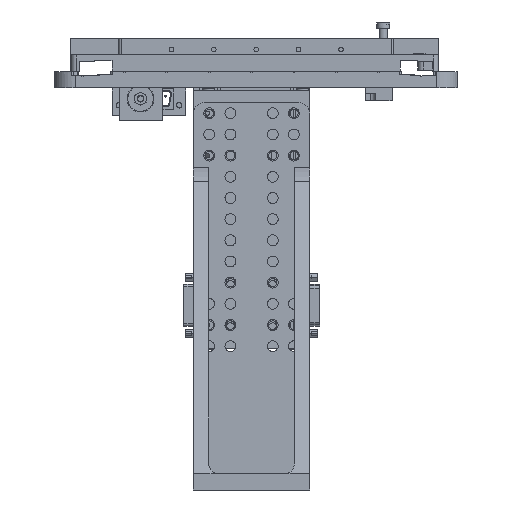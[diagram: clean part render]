
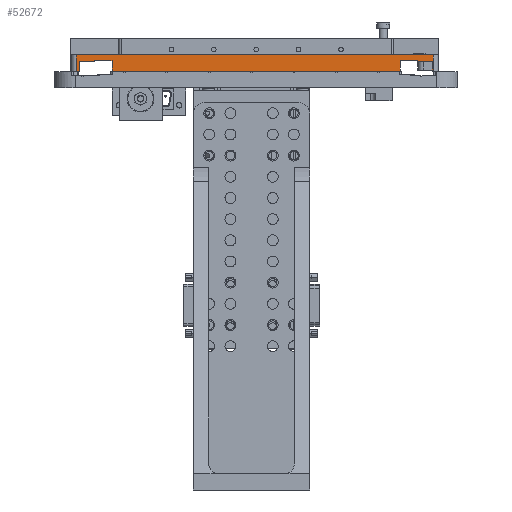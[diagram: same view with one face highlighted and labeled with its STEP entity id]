
A CAD part, left-side view. The second image highlights one B-rep face of the part: STEP entity #52672.
In plain terms, the highlighted planar face has unit normal (-1, 0, 0).
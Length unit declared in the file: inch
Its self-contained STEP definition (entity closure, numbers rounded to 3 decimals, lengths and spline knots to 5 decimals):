
#27 = VECTOR ( 'NONE', #42781, 39.37008 ) ;
#41 = DIRECTION ( 'NONE',  ( 0., -1., 0. ) ) ;
#287 = VERTEX_POINT ( 'NONE', #26554 ) ;
#388 = VECTOR ( 'NONE', #12713, 39.37008 ) ;
#1182 = VERTEX_POINT ( 'NONE', #33631 ) ;
#1477 = CARTESIAN_POINT ( 'NONE',  ( -4.59762, 3.727, -0.75 ) ) ;
#1536 = EDGE_CURVE ( 'NONE', #53768, #5730, #20669, .T. ) ;
#2071 = EDGE_CURVE ( 'NONE', #50399, #58803, #33586, .T. ) ;
#2207 = LINE ( 'NONE', #33497, #7941 ) ;
#2590 = ORIENTED_EDGE ( 'NONE', *, *, #3871, .T. ) ;
#2613 = CARTESIAN_POINT ( 'NONE',  ( -4.59762, 3.302, -0.525 ) ) ;
#3385 = VERTEX_POINT ( 'NONE', #52955 ) ;
#3871 = EDGE_CURVE ( 'NONE', #7195, #6837, #53985, .T. ) ;
#4438 = DIRECTION ( 'NONE',  ( 0., 0., 1. ) ) ;
#4746 = CARTESIAN_POINT ( 'NONE',  ( -4.59762, -4.69, -0.75 ) ) ;
#4893 = VECTOR ( 'NONE', #4438, 39.37008 ) ;
#5049 = DIRECTION ( 'NONE',  ( 0., -1., 0. ) ) ;
#5406 = VERTEX_POINT ( 'NONE', #34557 ) ;
#5730 = VERTEX_POINT ( 'NONE', #2613 ) ;
#5966 = VECTOR ( 'NONE', #5049, 39.37008 ) ;
#6288 = EDGE_CURVE ( 'NONE', #7195, #26745, #56211, .T. ) ;
#6837 = VERTEX_POINT ( 'NONE', #1477 ) ;
#6906 = ORIENTED_EDGE ( 'NONE', *, *, #27693, .T. ) ;
#7195 = VERTEX_POINT ( 'NONE', #52075 ) ;
#7704 = CARTESIAN_POINT ( 'NONE',  ( -4.59762, -3.804, -0.505 ) ) ;
#7941 = VECTOR ( 'NONE', #38187, 39.37008 ) ;
#8794 = LINE ( 'NONE', #59465, #38584 ) ;
#9922 = CARTESIAN_POINT ( 'NONE',  ( -4.59762, -3.804, -0.75 ) ) ;
#11662 = DIRECTION ( 'NONE',  ( 0., 0., -1. ) ) ;
#12145 = VECTOR ( 'NONE', #19642, 39.37008 ) ;
#12713 = DIRECTION ( 'NONE',  ( 0., -1., 0. ) ) ;
#12854 = DIRECTION ( 'NONE',  ( 0., -1., 0. ) ) ;
#13256 = DIRECTION ( 'NONE',  ( 0., 0., 1. ) ) ;
#13257 = LINE ( 'NONE', #31969, #18590 ) ;
#14494 = LINE ( 'NONE', #51361, #31379 ) ;
#14776 = VERTEX_POINT ( 'NONE', #26585 ) ;
#15054 = LINE ( 'NONE', #28548, #12145 ) ;
#15175 = DIRECTION ( 'NONE',  ( -1., 0., 0. ) ) ;
#16996 = VECTOR ( 'NONE', #22607, 39.37008 ) ;
#17284 = EDGE_CURVE ( 'NONE', #6837, #31230, #2207, .T. ) ;
#17549 = CARTESIAN_POINT ( 'NONE',  ( -4.59762, 3.302, -0.525 ) ) ;
#18048 = AXIS2_PLACEMENT_3D ( 'NONE', #4746, #15175, #33576 ) ;
#18067 = VECTOR ( 'NONE', #11662, 39.37008 ) ;
#18590 = VECTOR ( 'NONE', #26467, 39.37008 ) ;
#18935 = ORIENTED_EDGE ( 'NONE', *, *, #2071, .T. ) ;
#19642 = DIRECTION ( 'NONE',  ( 0., -1., 0. ) ) ;
#20513 = ORIENTED_EDGE ( 'NONE', *, *, #28870, .T. ) ;
#20669 = LINE ( 'NONE', #24045, #27 ) ;
#20725 = DIRECTION ( 'NONE',  ( 0., 0., 1. ) ) ;
#20835 = ORIENTED_EDGE ( 'NONE', *, *, #40551, .T. ) ;
#21080 = EDGE_CURVE ( 'NONE', #1182, #35561, #50301, .T. ) ;
#21148 = ORIENTED_EDGE ( 'NONE', *, *, #30170, .T. ) ;
#22575 = CARTESIAN_POINT ( 'NONE',  ( -4.59762, 3.652, -0.525 ) ) ;
#22607 = DIRECTION ( 'NONE',  ( 0., 0., 1. ) ) ;
#22621 = ORIENTED_EDGE ( 'NONE', *, *, #1536, .T. ) ;
#24045 = CARTESIAN_POINT ( 'NONE',  ( -4.59762, 3.652, -0.525 ) ) ;
#25852 = ORIENTED_EDGE ( 'NONE', *, *, #50138, .T. ) ;
#26467 = DIRECTION ( 'NONE',  ( 0., 0., -1. ) ) ;
#26554 = CARTESIAN_POINT ( 'NONE',  ( -4.59762, 2.896, -0.75 ) ) ;
#26585 = CARTESIAN_POINT ( 'NONE',  ( -4.59762, 2.896, -0.505 ) ) ;
#26745 = VERTEX_POINT ( 'NONE', #58321 ) ;
#27229 = CARTESIAN_POINT ( 'NONE',  ( -4.59762, -4.565, -0.75 ) ) ;
#27243 = EDGE_CURVE ( 'NONE', #31230, #53768, #39466, .T. ) ;
#27470 = LINE ( 'NONE', #9922, #4893 ) ;
#27693 = EDGE_CURVE ( 'NONE', #5730, #39262, #59600, .T. ) ;
#28347 = ORIENTED_EDGE ( 'NONE', *, *, #27243, .T. ) ;
#28548 = CARTESIAN_POINT ( 'NONE',  ( -4.59762, -4.21, -0.525 ) ) ;
#28870 = EDGE_CURVE ( 'NONE', #39262, #14776, #43436, .T. ) ;
#28933 = ORIENTED_EDGE ( 'NONE', *, *, #21080, .T. ) ;
#29344 = VERTEX_POINT ( 'NONE', #49488 ) ;
#30170 = EDGE_CURVE ( 'NONE', #5406, #50399, #27470, .T. ) ;
#30829 = CARTESIAN_POINT ( 'NONE',  ( -4.59762, 3.302, -0.505 ) ) ;
#31230 = VERTEX_POINT ( 'NONE', #43099 ) ;
#31379 = VECTOR ( 'NONE', #41, 39.37008 ) ;
#31839 = LINE ( 'NONE', #27229, #16996 ) ;
#31969 = CARTESIAN_POINT ( 'NONE',  ( -4.59762, -4.541, -0.525 ) ) ;
#32025 = ORIENTED_EDGE ( 'NONE', *, *, #17284, .T. ) ;
#32678 = PLANE ( 'NONE',  #18048 ) ;
#33497 = CARTESIAN_POINT ( 'NONE',  ( -4.59762, -4.69, -0.75 ) ) ;
#33576 = DIRECTION ( 'NONE',  ( 0., 0., 1. ) ) ;
#33586 = LINE ( 'NONE', #33900, #5966 ) ;
#33631 = CARTESIAN_POINT ( 'NONE',  ( -4.59762, -4.541, -0.75 ) ) ;
#33900 = CARTESIAN_POINT ( 'NONE',  ( -4.59762, -3.804, -0.505 ) ) ;
#34250 = ORIENTED_EDGE ( 'NONE', *, *, #6288, .F. ) ;
#34557 = CARTESIAN_POINT ( 'NONE',  ( -4.59762, -3.804, -0.75 ) ) ;
#35004 = CARTESIAN_POINT ( 'NONE',  ( -4.59762, 2.896, -0.505 ) ) ;
#35561 = VERTEX_POINT ( 'NONE', #36481 ) ;
#36143 = CARTESIAN_POINT ( 'NONE',  ( -4.59762, 3.727, -0.75 ) ) ;
#36481 = CARTESIAN_POINT ( 'NONE',  ( -4.59762, -4.565, -0.75 ) ) ;
#36799 = CARTESIAN_POINT ( 'NONE',  ( -4.59762, -4.69, -0.75 ) ) ;
#37789 = CARTESIAN_POINT ( 'NONE',  ( -4.59762, 3.852, -0.375 ) ) ;
#38187 = DIRECTION ( 'NONE',  ( 0., -1., 0. ) ) ;
#38584 = VECTOR ( 'NONE', #40767, 39.37008 ) ;
#38817 = ORIENTED_EDGE ( 'NONE', *, *, #59268, .T. ) ;
#39262 = VERTEX_POINT ( 'NONE', #43240 ) ;
#39466 = LINE ( 'NONE', #54197, #42401 ) ;
#40343 = EDGE_CURVE ( 'NONE', #3385, #29344, #15054, .T. ) ;
#40551 = EDGE_CURVE ( 'NONE', #14776, #287, #54055, .T. ) ;
#40767 = DIRECTION ( 'NONE',  ( 0., 0., -1. ) ) ;
#41955 = ORIENTED_EDGE ( 'NONE', *, *, #59176, .T. ) ;
#42401 = VECTOR ( 'NONE', #20725, 39.37008 ) ;
#42781 = DIRECTION ( 'NONE',  ( 0., -1., 0. ) ) ;
#42975 = ORIENTED_EDGE ( 'NONE', *, *, #48355, .T. ) ;
#43099 = CARTESIAN_POINT ( 'NONE',  ( -4.59762, 3.652, -0.75 ) ) ;
#43240 = CARTESIAN_POINT ( 'NONE',  ( -4.59762, 3.302, -0.505 ) ) ;
#43436 = LINE ( 'NONE', #30829, #388 ) ;
#44031 = EDGE_LOOP ( 'NONE', ( #42975, #28933, #38817, #34250, #2590, #32025, #28347, #22621, #6906, #20513, #20835, #25852, #21148, #18935, #41955, #53697 ) ) ;
#47092 = FACE_OUTER_BOUND ( 'NONE', #44031, .T. ) ;
#48355 = EDGE_CURVE ( 'NONE', #29344, #1182, #13257, .T. ) ;
#49488 = CARTESIAN_POINT ( 'NONE',  ( -4.59762, -4.541, -0.525 ) ) ;
#49569 = VECTOR ( 'NONE', #50720, 39.37008 ) ;
#50138 = EDGE_CURVE ( 'NONE', #287, #5406, #14494, .T. ) ;
#50301 = LINE ( 'NONE', #36799, #52387 ) ;
#50399 = VERTEX_POINT ( 'NONE', #7704 ) ;
#50720 = DIRECTION ( 'NONE',  ( 0., -1., 0. ) ) ;
#51361 = CARTESIAN_POINT ( 'NONE',  ( -4.59762, -4.69, -0.75 ) ) ;
#52075 = CARTESIAN_POINT ( 'NONE',  ( -4.59762, 3.727, -0.375 ) ) ;
#52387 = VECTOR ( 'NONE', #12854, 39.37008 ) ;
#52672 = ADVANCED_FACE ( 'NONE', ( #47092 ), #32678, .T. ) ;
#52955 = CARTESIAN_POINT ( 'NONE',  ( -4.59762, -4.21, -0.525 ) ) ;
#53236 = CARTESIAN_POINT ( 'NONE',  ( -4.59762, -4.21, -0.505 ) ) ;
#53697 = ORIENTED_EDGE ( 'NONE', *, *, #40343, .T. ) ;
#53768 = VERTEX_POINT ( 'NONE', #22575 ) ;
#53985 = LINE ( 'NONE', #36143, #58205 ) ;
#54055 = LINE ( 'NONE', #35004, #18067 ) ;
#54197 = CARTESIAN_POINT ( 'NONE',  ( -4.59762, 3.652, -0.75 ) ) ;
#54584 = DIRECTION ( 'NONE',  ( 0., 0., -1. ) ) ;
#55216 = VECTOR ( 'NONE', #13256, 39.37008 ) ;
#56211 = LINE ( 'NONE', #37789, #49569 ) ;
#58205 = VECTOR ( 'NONE', #54584, 39.37008 ) ;
#58321 = CARTESIAN_POINT ( 'NONE',  ( -4.59762, -4.565, -0.375 ) ) ;
#58803 = VERTEX_POINT ( 'NONE', #53236 ) ;
#59176 = EDGE_CURVE ( 'NONE', #58803, #3385, #8794, .T. ) ;
#59268 = EDGE_CURVE ( 'NONE', #35561, #26745, #31839, .T. ) ;
#59465 = CARTESIAN_POINT ( 'NONE',  ( -4.59762, -4.21, -0.505 ) ) ;
#59600 = LINE ( 'NONE', #17549, #55216 ) ;
